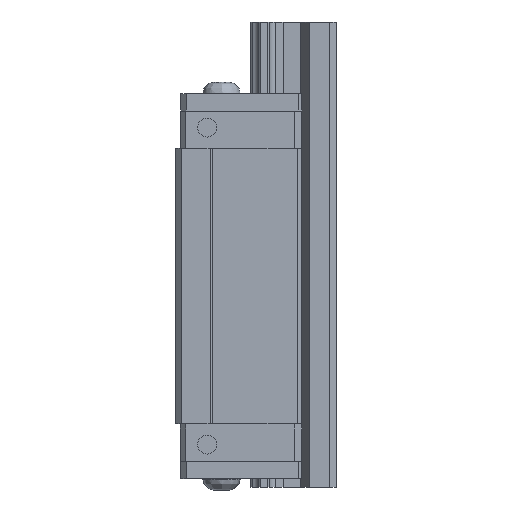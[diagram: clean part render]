
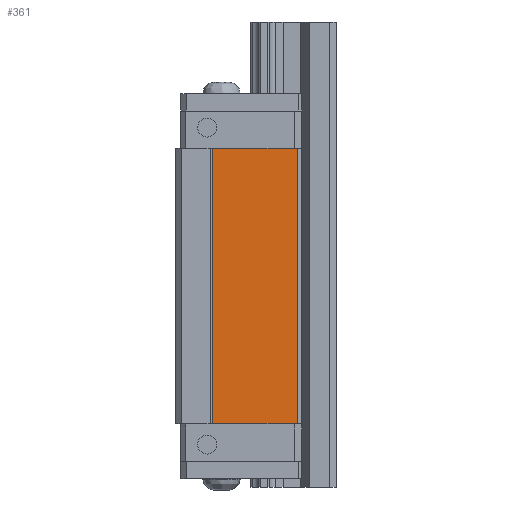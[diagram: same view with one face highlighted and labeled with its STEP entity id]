
A CAD part, left-side view. The second image highlights one B-rep face of the part: STEP entity #361.
In plain terms, the highlighted planar face has unit normal (-1, 0, 0).
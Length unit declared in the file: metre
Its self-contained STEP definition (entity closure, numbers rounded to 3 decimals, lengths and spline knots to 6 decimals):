
#361 = ADVANCED_FACE( '', ( #896 ), #897, .F. );
#896 = FACE_OUTER_BOUND( '', #1700, .T. );
#897 = PLANE( '', #1701 );
#1700 = EDGE_LOOP( '', ( #2779, #2780, #2781, #2782 ) );
#1701 = AXIS2_PLACEMENT_3D( '', #2783, #2784, #2785 );
#2779 = ORIENTED_EDGE( '', *, *, #4605, .T. );
#2780 = ORIENTED_EDGE( '', *, *, #4622, .F. );
#2781 = ORIENTED_EDGE( '', *, *, #4623, .F. );
#2782 = ORIENTED_EDGE( '', *, *, #4624, .T. );
#2783 = CARTESIAN_POINT( '', ( -0.0206, 0.0068, -0.07 ) );
#2784 = DIRECTION( '', ( 1., 0., 0. ) );
#2785 = DIRECTION( '', ( 0., 1., 0. ) );
#4605 = EDGE_CURVE( '', #5533, #5531, #5534, .T. );
#4622 = EDGE_CURVE( '', #5561, #5531, #5562, .T. );
#4623 = EDGE_CURVE( '', #5563, #5561, #5564, .T. );
#4624 = EDGE_CURVE( '', #5563, #5533, #5565, .T. );
#5531 = VERTEX_POINT( '', #6820 );
#5533 = VERTEX_POINT( '', #6823 );
#5534 = LINE( '', #6824, #6825 );
#5561 = VERTEX_POINT( '', #6861 );
#5562 = LINE( '', #6862, #6863 );
#5563 = VERTEX_POINT( '', #6864 );
#5564 = LINE( '', #6865, #6866 );
#5565 = LINE( '', #6867, #6868 );
#6820 = CARTESIAN_POINT( '', ( -0.0206, 0.0216, -0.022 ) );
#6823 = CARTESIAN_POINT( '', ( -0.0206, 0.0068, -0.022 ) );
#6824 = CARTESIAN_POINT( '', ( -0.0206, 0.0068, -0.022 ) );
#6825 = VECTOR( '', #8159, 1. );
#6861 = CARTESIAN_POINT( '', ( -0.0206, 0.0216, -0.07 ) );
#6862 = CARTESIAN_POINT( '', ( -0.0206, 0.0216, -0.07 ) );
#6863 = VECTOR( '', #8181, 1. );
#6864 = CARTESIAN_POINT( '', ( -0.0206, 0.0068, -0.07 ) );
#6865 = CARTESIAN_POINT( '', ( -0.0206, 0.0068, -0.07 ) );
#6866 = VECTOR( '', #8182, 1. );
#6867 = CARTESIAN_POINT( '', ( -0.0206, 0.0068, -0.07 ) );
#6868 = VECTOR( '', #8183, 1. );
#8159 = DIRECTION( '', ( 0., 1., 0. ) );
#8181 = DIRECTION( '', ( 0., 0., 1. ) );
#8182 = DIRECTION( '', ( 0., 1., 0. ) );
#8183 = DIRECTION( '', ( 0., 0., 1. ) );
